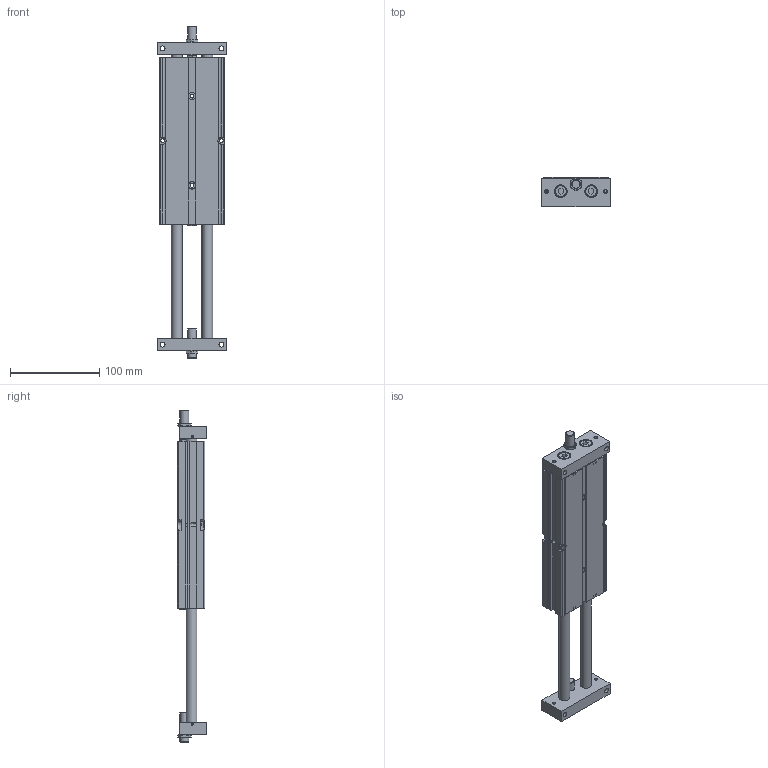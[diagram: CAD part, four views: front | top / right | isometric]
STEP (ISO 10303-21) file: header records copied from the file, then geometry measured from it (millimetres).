
FILE_DESCRIPTION((''),'2;1');
FILE_NAME('I:\3D電子目錄\氣缸\STU\STU\STU25\STU25x125.stp','2007-10-01T11:42:58',('Administrator'),(''),'Autodesk Inventor 11','Autodesk Inventor 11','');
FILE_SCHEMA(('AUTOMOTIVE_DESIGN { 1 0 10303 214 1 1 1 1 }'));
Length unit declared in the file: millimetre
Products named in the file (1): STU25
Bounding box: 77 x 33 x 372 mm (x, y, z)
Volume: 477106.5 mm3; surface area: 90281.8 mm2
Topology: 1 solids, 1 shells, 350 faces, 884 edges, 559 vertices
Faces by surface type: plane 163, cone 81, bspline 58, cylinder 44, torus 4
Full cylindrical faces by diameter (mm): 2.459 x2, 8 x2, 10 x4, 12 x2, 13 x4, 14 x4, 28 x2, 29.6 x2
Entity records: 11240 total; most frequent: CARTESIAN_POINT 3736, ORIENTED_EDGE 1484, DIRECTION 1462, EDGE_CURVE 742, AXIS2_PLACEMENT_3D 555, EDGE_LOOP 530, VERTEX_POINT 522, VECTOR 352
